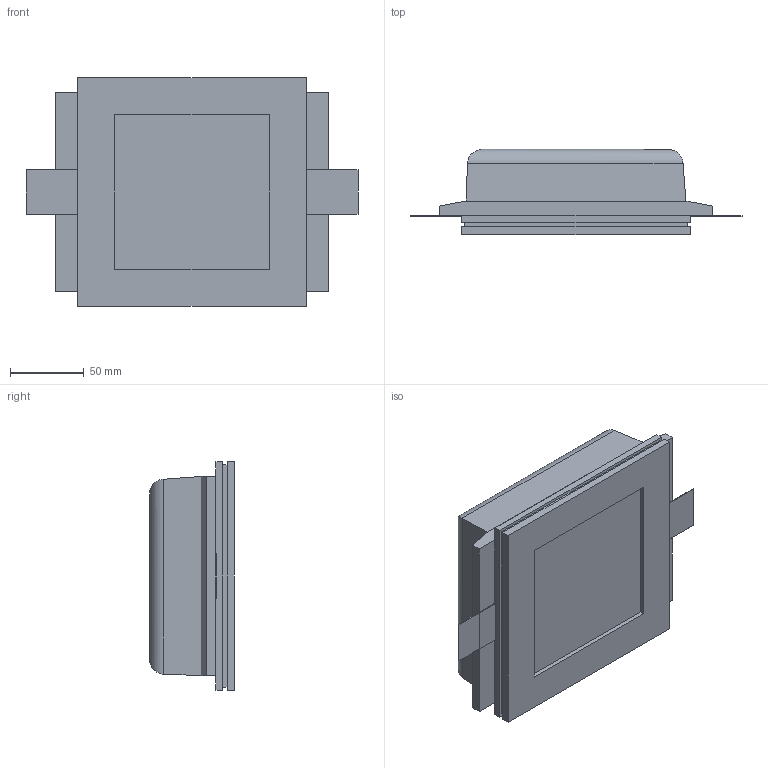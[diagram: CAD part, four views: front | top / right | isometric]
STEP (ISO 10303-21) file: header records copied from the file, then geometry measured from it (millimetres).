
FILE_DESCRIPTION (( 'STEP AP214' ), '1' );
FILE_NAME ('GHOST BIG 3D MODEL.STEP', '2016-10-20T12:54:07', ( 'Utente' ), ( '' ), 'SwSTEP 2.0', 'SolidWorks 2016', '' );
FILE_SCHEMA (( 'AUTOMOTIVE_DESIGN' ));
Length unit declared in the file: millimetre
Products named in the file (1): GHOST BIG 3D MODEL
Bounding box: 225 x 57.5 x 155 mm (x, y, z)
Volume: 761007.5 mm3; surface area: 107105.5 mm2
Topology: 1 solids, 1 shells, 56 faces, 137 edges, 87 vertices
Faces by surface type: plane 52, cylinder 4
Entity records: 1755 total; most frequent: CARTESIAN_POINT 305, ORIENTED_EDGE 274, DIRECTION 243, EDGE_CURVE 137, VECTOR 129, LINE 129, VERTEX_POINT 87, EDGE_LOOP 60
